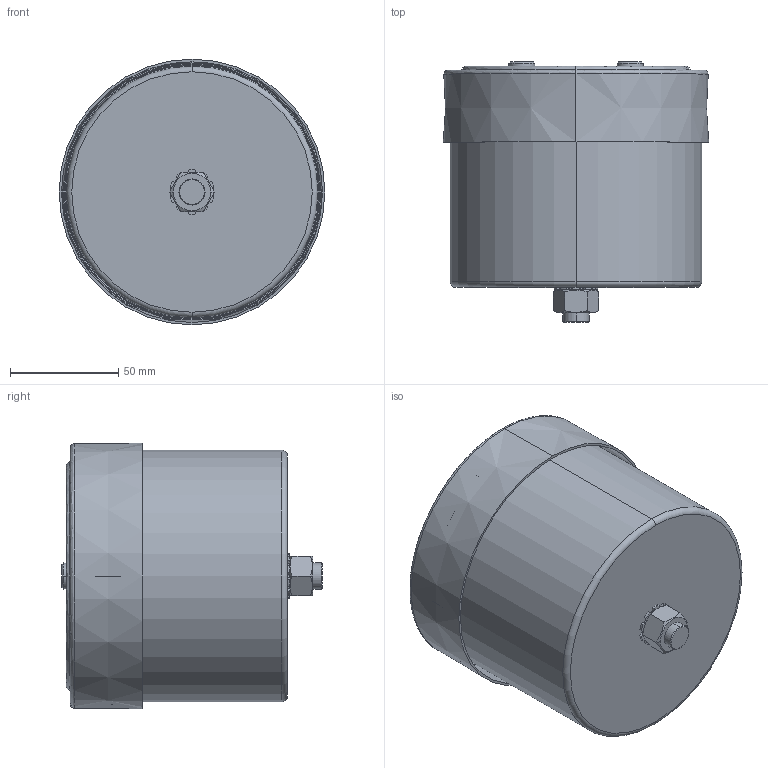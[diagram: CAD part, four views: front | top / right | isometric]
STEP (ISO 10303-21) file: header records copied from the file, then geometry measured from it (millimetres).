
FILE_DESCRIPTION (( 'STEP AP203' ), '1' );
FILE_NAME ('B25680Cx_116x102_104.STEP', '2021-09-13T08:38:38', ( '' ), ( '' ), 'SwSTEP 2.0', 'SolidWorks 2017', '' );
FILE_SCHEMA (( 'CONFIG_CONTROL_DESIGN' ));
Length unit declared in the file: millimetre
Products named in the file (1): B25680Cx_116x102_104
Bounding box: 122.58 x 120 x 122.58 mm (x, y, z)
Volume: 136015.4 mm3; surface area: 189368.7 mm2
Topology: 1 solids, 7 shells, 571 faces, 1422 edges, 899 vertices
Faces by surface type: plane 207, cylinder 166, bspline 83, cone 75, torus 40
Entity records: 20283 total; most frequent: CARTESIAN_POINT 6975, ORIENTED_EDGE 2818, DIRECTION 2748, EDGE_CURVE 1409, AXIS2_PLACEMENT_3D 1112, VERTEX_POINT 899, EDGE_LOOP 632, CIRCLE 623
